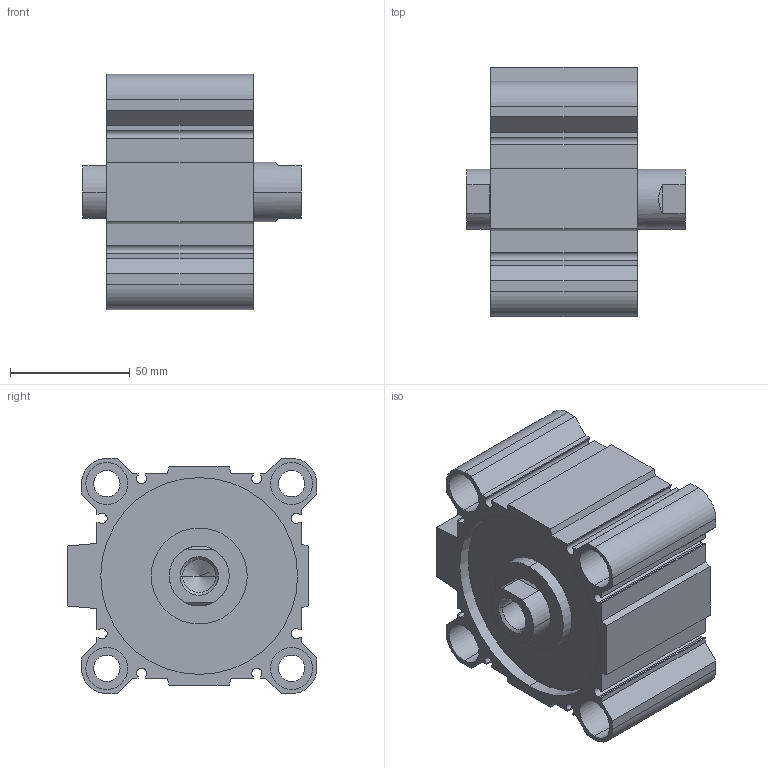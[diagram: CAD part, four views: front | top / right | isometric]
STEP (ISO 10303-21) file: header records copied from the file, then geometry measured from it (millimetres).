
FILE_DESCRIPTION (( 'STEP AP203' ), '1' );
FILE_NAME ('CCMB80-10F-P.STEP', '2020-08-05T11:48:46', ( '' ), ( '' ), 'SwSTEP 2.0', 'SolidWorks 2019', '' );
FILE_SCHEMA (( 'CONFIG_CONTROL_DESIGN' ));
Length unit declared in the file: millimetre
Products named in the file (1): CCMB80-10F-P
Bounding box: 91 x 104 x 98 mm (x, y, z)
Volume: 389029.4 mm3; surface area: 105933.8 mm2
Topology: 2 solids, 2 shells, 176 faces, 450 edges, 294 vertices
Faces by surface type: plane 90, cylinder 74, cone 12
Entity records: 5425 total; most frequent: DIRECTION 956, CARTESIAN_POINT 929, ORIENTED_EDGE 892, EDGE_CURVE 446, AXIS2_PLACEMENT_3D 337, VERTEX_POINT 294, LINE 282, VECTOR 282
